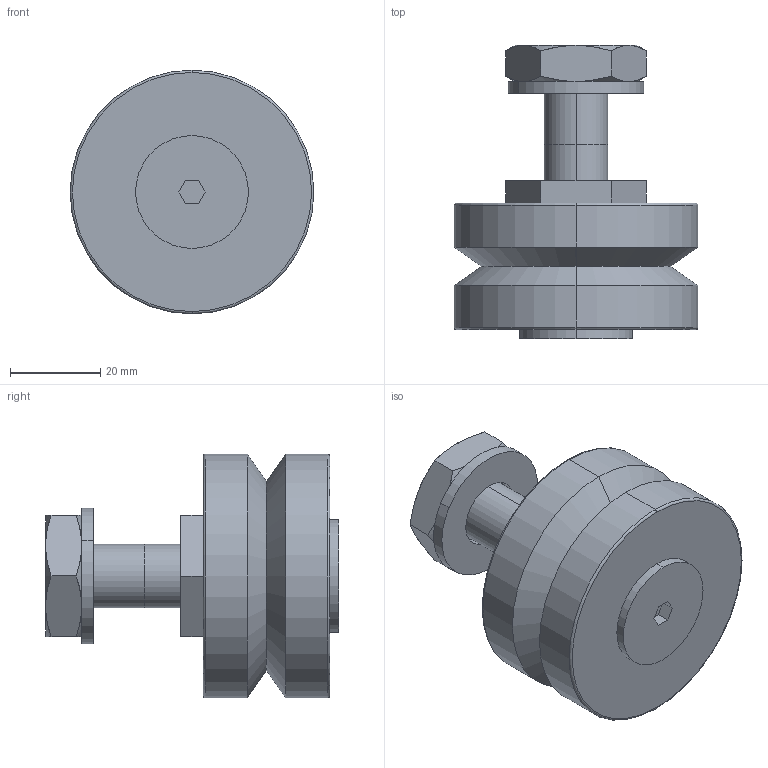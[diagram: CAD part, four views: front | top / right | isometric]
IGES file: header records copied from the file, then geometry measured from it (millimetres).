
Start section: 3D InterOp IGES (Version 21 0 1), Spatial Corp. Copyright (c) 1999-2007.
Global section: file name: NAL-54-C.igs; native system: Spatial Corp.; preprocessor: 3D InterOp GENERIC/IGES 3.0; author: Noname; organization: Noname; date: 20220311.162711; units: millimetre
Bounding box: 54 x 65 x 54 mm (x, y, z)
Surface area: 15465.2 mm2 (no closed solid volume)
Topology: 0 solids, 0 shells, 67 faces, 292 edges, 288 vertices
Faces by surface type: revolution 40, extrusion 27
